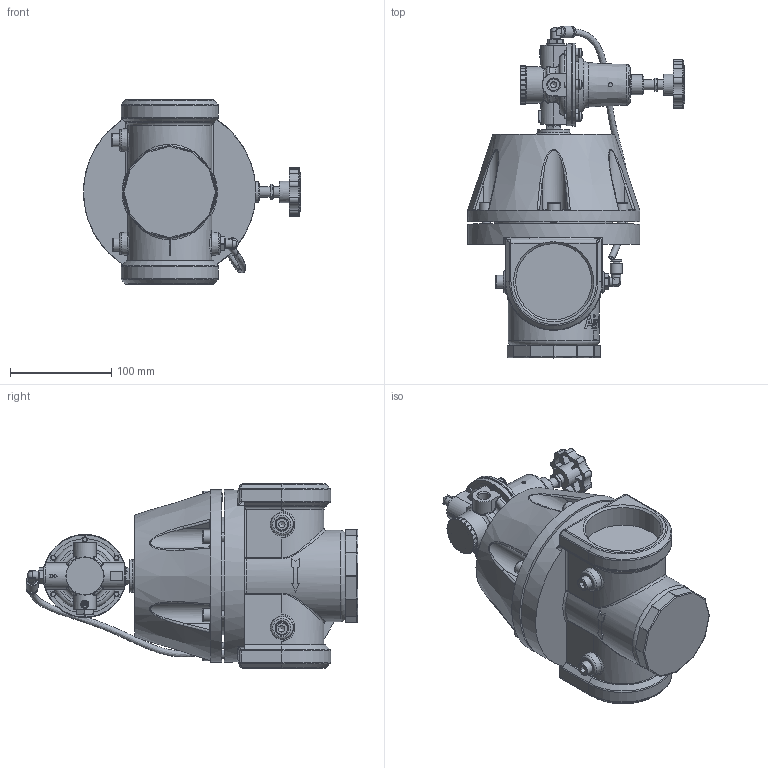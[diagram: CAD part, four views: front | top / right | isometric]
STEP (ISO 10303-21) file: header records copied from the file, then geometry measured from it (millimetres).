
FILE_DESCRIPTION(/* description */ (''),/* implementation_level */ '2;1');
FILE_NAME(/* name */ 'B-R119-20C-D_R15.step',/* time_stamp */ '2022-10-20T14:14:55+02:00',/* author */ (''),/* organization */ (''),/* preprocessor_version */ 'ST-DEVELOPER v19.2',/* originating_system */ 'Autodesk Translation Framework v11.17.0.187',/* authorisation */ '');
FILE_SCHEMA (('AUTOMOTIVE_DESIGN { 1 0 10303 214 3 1 1 }'));
Products named in the file (14): B-R119-20C-D_neutral; ISO 4762 M8 x 12; ISO 4762 M8 x 25; ISO 4762 M8 x 20; doppelnippel-1-4 v2; 754.014-6 v1; B-R15-02x v4; 0DE50309_7; Komponente12; B-R119-20x; B-R119-20x_1; ISO 4762 M8 x 12_1; ISO 4762 M8 x 25_1; ISO 4762 M8 x 20_1
Assembly tree (26 placements, depth 3):
  B-R119-20C-D_neutral
    ISO 4762 M8 x 25  x2
    ISO 4762 M8 x 12
    ISO 4762 M8 x 20  x6
    doppelnippel-1-4 v2
    754.014-6 v1  x2
    B-R15-02x v4
      0DE50309_7
    Komponente12
    B-R119-20x
      B-R119-20x_1
      ISO 4762 M8 x 25_1  x2
      ISO 4762 M8 x 12_1
      ISO 4762 M8 x 20_1  x6
Bounding box: 214 x 327.3 x 182 mm (x, y, z)
Volume: 3224449 mm3; surface area: 291096.3 mm2
Topology: 18 solids, 21 shells, 1628 faces, 4076 edges, 2561 vertices
Faces by surface type: plane 625, cylinder 475, bspline 167, cone 166, torus 158, sphere 37
Full cylindrical faces by diameter (mm): 0.5 x1, 0.85 x12, 1 x4, 1.2 x1, 4 x1, 4.567 x6, 5 x15, 5.3 x3, 5.5 x1, 5.8 x6, 6 x5, 7 x1, 7.1 x3, 7.2 x1, 8 x11, 9 x18, 9.9 x3, 10 x2, 10.5 x2, 11 x5, 11.1 x3, 11.5 x9, 11.8 x3, 13 x9, 13.157 x3, 16 x1, 18 x3, 20 x1, 21 x1, 29 x1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
Entity records: 74432 total; most frequent: CARTESIAN_POINT 38818, ORIENTED_EDGE 7410, DIRECTION 7373, EDGE_CURVE 3705, AXIS2_PLACEMENT_3D 2995, VERTEX_POINT 2329, EDGE_LOOP 1630, CIRCLE 1564
